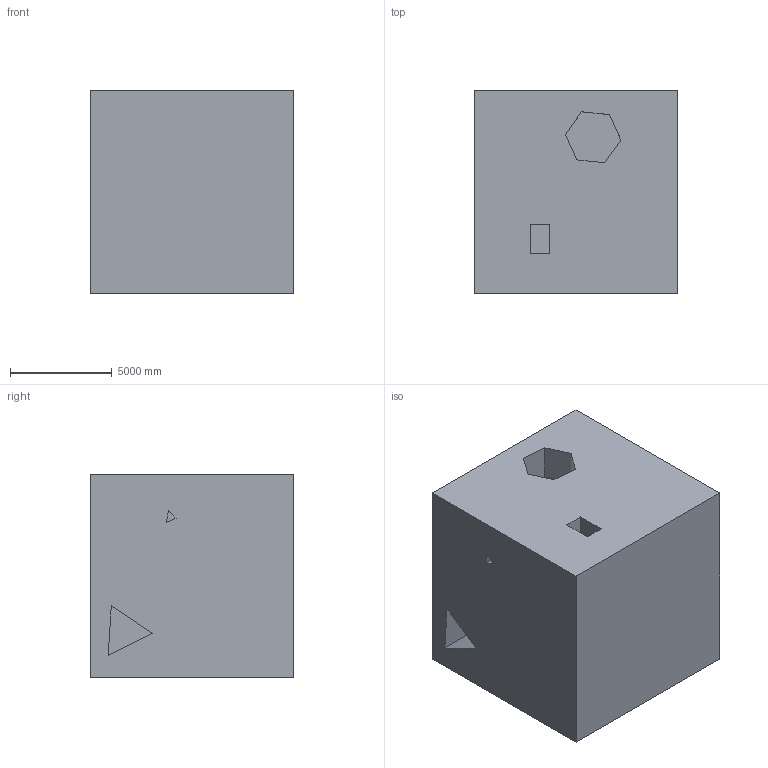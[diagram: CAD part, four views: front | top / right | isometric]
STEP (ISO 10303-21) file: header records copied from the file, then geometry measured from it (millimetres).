
FILE_DESCRIPTION (( 'STEP AP203' ), '1' );
FILE_NAME ('50.STEP', '2022-09-01T14:19:33', ( 'user' ), ( '' ), 'SwSTEP 2.0', 'SolidWorks 2021', '' );
FILE_SCHEMA (( 'CONFIG_CONTROL_DESIGN' ));
Length unit declared in the file: centimetre
Products named in the file (1): 50
Bounding box: 10000 x 10000 x 10000 mm (x, y, z)
Volume: 954410789732.8 mm3; surface area: 700879310.6 mm2
Topology: 1 solids, 1 shells, 32 faces, 78 edges, 52 vertices
Faces by surface type: plane 32
Entity records: 999 total; most frequent: CARTESIAN_POINT 163, ORIENTED_EDGE 156, DIRECTION 144, EDGE_CURVE 78, VECTOR 78, LINE 78, VERTEX_POINT 52, EDGE_LOOP 36
